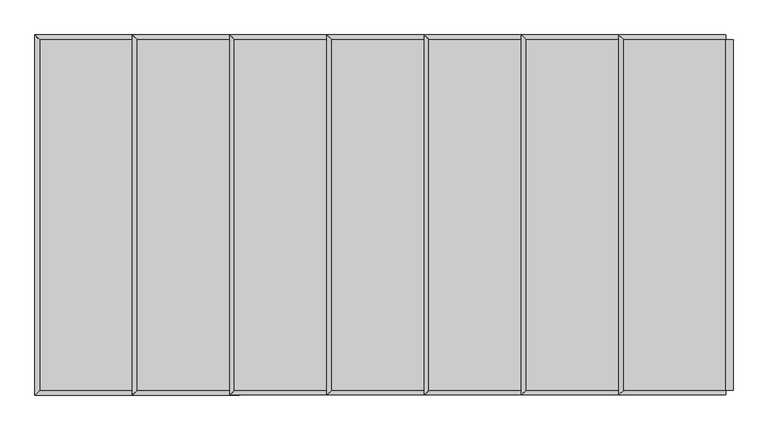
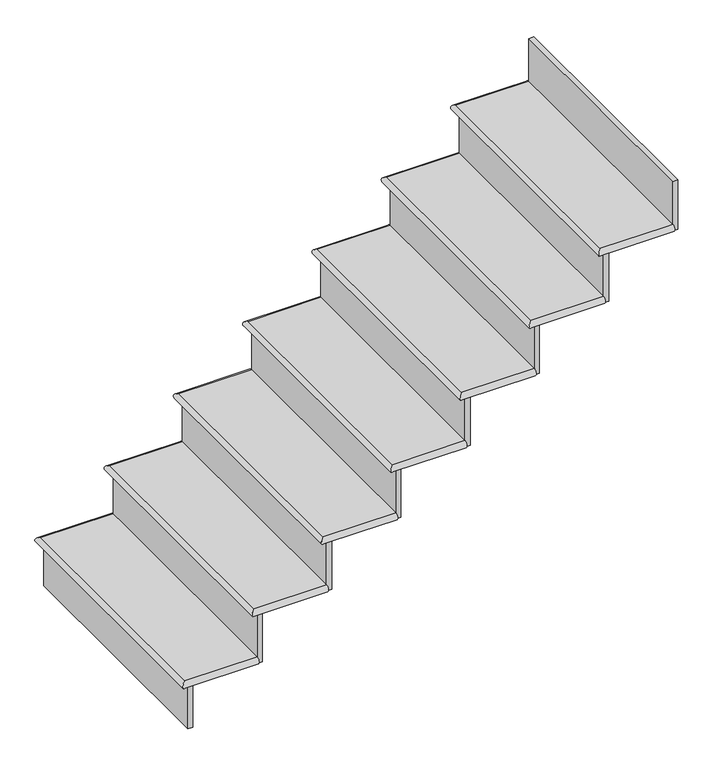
"""IFC4 building model written with IfcOpenShell, lengths in millimetres: stair flight geometry."""

from ifc_helpers import new_model, si_unit, frame, origin, place, context, project, spatial, circle_curve, ellipse_curve, faceted_brep, source, transform, mapped, element, save
from ifc_brep_helpers import plane_surface, cylinder_surface, advanced_brep


def stair_flight_e1e404fc(model_context):
    return source(origin(), model_context, "Body", "SolidModel", [
        advanced_brep(
        [(-17769.3481446, 3955.9128094, 165.1), (-17769.3481446, 3955.9128094, 190.5), (-17769.3481446, 4870.3128094, 190.5), (-17769.3481446, 4870.3128094, 165.1), (-17502.6481446, 3955.9128094, 190.5), (-17502.6481446, 4870.3128094, 190.5), (-17502.6481446, 4870.3128094, 165.1), (-17502.6481446, 3955.9128094, 165.1)],
        [
            (0, 1, ellipse_curve(frame((-17769.3481446, 3955.9128094, 177.8), z_axis=(-0.7071067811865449, 0.7071067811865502, 0.0), x_axis=(-0.7071067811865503, -0.7071067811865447, 0.0)), 17.9605122, 12.7)),
            (1, 2),
            (2, 3, ellipse_curve(frame((-17769.3481446, 4870.3128094, 177.8), z_axis=(-0.7071067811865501, -0.7071067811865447, 0.0), x_axis=(0.7071067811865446, -0.7071067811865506, 0.0)), 17.9605122, 12.7)),
            (3, 0),
            (4, 5),
            (5, 2),
            (1, 4),
            (6, 7),
            (7, 0),
            (3, 6),
            (4, 7, circle_curve(frame((-17502.6481446, 3955.9128094, 177.8), z_axis=(1.0, 0.0, 0.0), x_axis=(0.0, 1.0, 0.0)), 12.7)),
            (6, 5, circle_curve(frame((-17502.6481446, 4870.3128094, 177.8), z_axis=(1.0, 0.0, 0.0), x_axis=(0.0, -1.0, 0.0)), 12.7)),
        ],
        [
            cylinder_surface(frame((-17769.3481446, 3955.9128094, 177.8), z_axis=(0.0, -1.0, 0.0), x_axis=(1.0, 0.0, 0.0)), 12.7),
            plane_surface(frame((-17782.0481446, 4870.3128094, 190.5), z_axis=(0.0, 0.0, 1.0), x_axis=(-1.0, 0.0, 0.0))),
            plane_surface(frame((-17782.0481446, 4870.3128094, 165.1), z_axis=(0.0, 0.0, -1.0), x_axis=(1.0, 0.0, 0.0))),
            plane_surface(frame((-17502.6481446, 3955.9128094, 190.5), z_axis=(1.0, 0.0, 0.0), x_axis=(0.0, 0.0, -1.0))),
            cylinder_surface(frame((-17502.6481446, 3955.9128094, 177.8), z_axis=(1.0, 0.0, 0.0), x_axis=(0.0, 1.0, 0.0)), 12.7),
            cylinder_surface(frame((-17769.3481446, 4870.3128094, 177.8), z_axis=(-1.0, 0.0, 0.0), x_axis=(0.0, -1.0, 0.0)), 12.7),
        ],
        [
            (0, [[1, 2, 3, 4]]),
            (1, [[5, 6, -2, 7]]),
            (2, [[8, 9, -4, 10]]),
            (3, [[-5, 11, -8, 12]]),
            (4, [[-11, -7, -1, -9]]),
            (5, [[-3, -6, -12, -10]]),
        ],
    ),
        faceted_brep([(-17756.6481446, 3955.9128094, 165.1), (-17756.6481446, 3955.9128094, 0.0), (-17737.5981446, 3955.9128094, 0.0), (-17737.5981446, 3955.9128094, 165.1), (-17756.6481446, 4870.3128094, 165.1), (-17737.5981446, 4870.3128094, 165.1), (-17737.5981446, 4870.3128094, 0.0), (-17756.6481446, 4870.3128094, 0.0)], [[[0, 1, 2, 3]], [[4, 5, 6, 7]], [[1, 0, 4, 7]], [[2, 1, 7, 6]], [[3, 2, 6, 5]], [[0, 3, 5, 4]]]),
        faceted_brep([(-17502.6481446, 3955.9128094, 355.6), (-17502.6481446, 3955.9128094, 165.1), (-17483.5981446, 3955.9128094, 165.1), (-17483.5981446, 3955.9128094, 355.6), (-17502.6481446, 4870.3128094, 355.6), (-17483.5981446, 4870.3128094, 355.6), (-17483.5981446, 4870.3128094, 165.1), (-17502.6481446, 4870.3128094, 165.1)], [[[0, 1, 2, 3]], [[4, 5, 6, 7]], [[1, 0, 4, 7]], [[2, 1, 7, 6]], [[3, 2, 6, 5]], [[0, 3, 5, 4]]]),
        advanced_brep(
        [(-17248.6481446, 3955.9128094, 381.0), (-17248.6481446, 4870.3128094, 381.0), (-17515.3481446, 4870.3128094, 381.0), (-17515.3481446, 3955.9128094, 381.0), (-17248.6481446, 4870.3128094, 355.6), (-17248.6481446, 3955.9128094, 355.6), (-17515.3481446, 3955.9128094, 355.6), (-17515.3481446, 4870.3128094, 355.6)],
        [
            (0, 1),
            (1, 2),
            (2, 3),
            (3, 0),
            (4, 5),
            (5, 6),
            (6, 7),
            (7, 4),
            (0, 5, circle_curve(frame((-17248.6481446, 3955.9128094, 368.3), z_axis=(1.0, 0.0, 0.0), x_axis=(0.0, 1.0, 0.0)), 12.7)),
            (4, 1, circle_curve(frame((-17248.6481446, 4870.3128094, 368.3), z_axis=(1.0, 0.0, 0.0), x_axis=(0.0, -1.0, 0.0)), 12.7)),
            (6, 3, ellipse_curve(frame((-17515.3481446, 3955.9128094, 368.3), z_axis=(-0.7071067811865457, 0.7071067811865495, 0.0), x_axis=(-0.7071067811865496, -0.7071067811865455, 0.0)), 17.9605122, 12.7)),
            (2, 7, ellipse_curve(frame((-17515.3481446, 4870.3128094, 368.3), z_axis=(-0.7071067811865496, -0.7071067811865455, 0.0), x_axis=(0.7071067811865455, -0.7071067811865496, 0.0)), 17.9605122, 12.7)),
        ],
        [
            plane_surface(frame((-17782.0481446, 4870.3128094, 381.0), z_axis=(0.0, 0.0, 1.0), x_axis=(-1.0, 0.0, 0.0))),
            plane_surface(frame((-17782.0481446, 4870.3128094, 355.6), z_axis=(0.0, 0.0, -1.0), x_axis=(1.0, 0.0, 0.0))),
            plane_surface(frame((-17248.6481446, 3955.9128094, 381.0), z_axis=(1.0, 0.0, 0.0), x_axis=(0.0, 0.0, -1.0))),
            cylinder_surface(frame((-17515.3481446, 3955.9128094, 368.3), z_axis=(0.0, -1.0, 0.0), x_axis=(1.0, 0.0, 0.0)), 12.7),
            cylinder_surface(frame((-17248.6481446, 3955.9128094, 368.3), z_axis=(1.0, 0.0, 0.0), x_axis=(0.0, 1.0, 0.0)), 12.7),
            cylinder_surface(frame((-17515.3481446, 4870.3128094, 368.3), z_axis=(-1.0, 0.0, 0.0), x_axis=(0.0, -1.0, 0.0)), 12.7),
        ],
        [
            (0, [[1, 2, 3, 4]]),
            (1, [[5, 6, 7, 8]]),
            (2, [[-1, 9, -5, 10]]),
            (3, [[11, -3, 12, -7]]),
            (4, [[-9, -4, -11, -6]]),
            (5, [[-12, -2, -10, -8]]),
        ],
    ),
        faceted_brep([(-17248.6481446, 3955.9128094, 546.1), (-17248.6481446, 3955.9128094, 355.6), (-17229.5981446, 3955.9128094, 355.6), (-17229.5981446, 3955.9128094, 546.1), (-17248.6481446, 4870.3128094, 546.1), (-17229.5981446, 4870.3128094, 546.1), (-17229.5981446, 4870.3128094, 355.6), (-17248.6481446, 4870.3128094, 355.6)], [[[0, 1, 2, 3]], [[4, 5, 6, 7]], [[1, 0, 4, 7]], [[2, 1, 7, 6]], [[3, 2, 6, 5]], [[0, 3, 5, 4]]]),
        advanced_brep(
        [(-16994.6481446, 3955.9128094, 571.5), (-16994.6481446, 4870.3128094, 571.5), (-17261.3481446, 4870.3128094, 571.5), (-17261.3481446, 3955.9128094, 571.5), (-16994.6481446, 4870.3128094, 546.1), (-16994.6481446, 3955.9128094, 546.1), (-17261.3481446, 3955.9128094, 546.1), (-17261.3481446, 4870.3128094, 546.1)],
        [
            (0, 1),
            (1, 2),
            (2, 3),
            (3, 0),
            (4, 5),
            (5, 6),
            (6, 7),
            (7, 4),
            (0, 5, circle_curve(frame((-16994.6481446, 3955.9128094, 558.8), z_axis=(1.0, 0.0, 0.0), x_axis=(0.0, 1.0, 0.0)), 12.7)),
            (4, 1, circle_curve(frame((-16994.6481446, 4870.3128094, 558.8), z_axis=(1.0, 0.0, 0.0), x_axis=(0.0, -1.0, 0.0)), 12.7)),
            (6, 3, ellipse_curve(frame((-17261.3481446, 3955.9128094, 558.8), z_axis=(-0.7071067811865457, 0.7071067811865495, 0.0), x_axis=(-0.7071067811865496, -0.7071067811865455, 0.0)), 17.9605122, 12.7)),
            (2, 7, ellipse_curve(frame((-17261.3481446, 4870.3128094, 558.8), z_axis=(-0.7071067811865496, -0.7071067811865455, 0.0), x_axis=(0.7071067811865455, -0.7071067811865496, 0.0)), 17.9605122, 12.7)),
        ],
        [
            plane_surface(frame((-17528.0481446, 4870.3128094, 571.5), z_axis=(0.0, 0.0, 1.0), x_axis=(-1.0, 0.0, 0.0))),
            plane_surface(frame((-17528.0481446, 4870.3128094, 546.1), z_axis=(0.0, 0.0, -1.0), x_axis=(1.0, 0.0, 0.0))),
            plane_surface(frame((-16994.6481446, 3955.9128094, 571.5), z_axis=(1.0, 0.0, 0.0), x_axis=(0.0, 0.0, -1.0))),
            cylinder_surface(frame((-17261.3481446, 3955.9128094, 558.8), z_axis=(0.0, -1.0, 0.0), x_axis=(1.0, 0.0, 0.0)), 12.7),
            cylinder_surface(frame((-16994.6481446, 3955.9128094, 558.8), z_axis=(1.0, 0.0, 0.0), x_axis=(0.0, 1.0, 0.0)), 12.7),
            cylinder_surface(frame((-17261.3481446, 4870.3128094, 558.8), z_axis=(-1.0, 0.0, 0.0), x_axis=(0.0, -1.0, 0.0)), 12.7),
        ],
        [
            (0, [[1, 2, 3, 4]]),
            (1, [[5, 6, 7, 8]]),
            (2, [[-1, 9, -5, 10]]),
            (3, [[11, -3, 12, -7]]),
            (4, [[-9, -4, -11, -6]]),
            (5, [[-12, -2, -10, -8]]),
        ],
    ),
        faceted_brep([(-16994.6481446, 3955.9128094, 736.6), (-16994.6481446, 3955.9128094, 546.1), (-16975.5981446, 3955.9128094, 546.1), (-16975.5981446, 3955.9128094, 736.6), (-16994.6481446, 4870.3128094, 736.6), (-16975.5981446, 4870.3128094, 736.6), (-16975.5981446, 4870.3128094, 546.1), (-16994.6481446, 4870.3128094, 546.1)], [[[0, 1, 2, 3]], [[4, 5, 6, 7]], [[1, 0, 4, 7]], [[2, 1, 7, 6]], [[3, 2, 6, 5]], [[0, 3, 5, 4]]]),
        advanced_brep(
        [(-16740.6481446, 3955.9128094, 762.0), (-16740.6481446, 4870.3128094, 762.0), (-17007.3481446, 4870.3128094, 762.0), (-17007.3481446, 3955.9128094, 762.0), (-16740.6481446, 4870.3128094, 736.6), (-16740.6481446, 3955.9128094, 736.6), (-17007.3481446, 3955.9128094, 736.6), (-17007.3481446, 4870.3128094, 736.6)],
        [
            (0, 1),
            (1, 2),
            (2, 3),
            (3, 0),
            (4, 5),
            (5, 6),
            (6, 7),
            (7, 4),
            (0, 5, circle_curve(frame((-16740.6481446, 3955.9128094, 749.3), z_axis=(1.0, 0.0, 0.0), x_axis=(0.0, 1.0, 0.0)), 12.7)),
            (4, 1, circle_curve(frame((-16740.6481446, 4870.3128094, 749.3), z_axis=(1.0, 0.0, 0.0), x_axis=(0.0, -1.0, 0.0)), 12.7)),
            (6, 3, ellipse_curve(frame((-17007.3481446, 3955.9128094, 749.3), z_axis=(-0.7071067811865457, 0.7071067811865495, 0.0), x_axis=(-0.7071067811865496, -0.7071067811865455, 0.0)), 17.9605122, 12.7)),
            (2, 7, ellipse_curve(frame((-17007.3481446, 4870.3128094, 749.3), z_axis=(-0.7071067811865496, -0.7071067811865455, 0.0), x_axis=(0.7071067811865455, -0.7071067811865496, 0.0)), 17.9605122, 12.7)),
        ],
        [
            plane_surface(frame((-17274.0481446, 4870.3128094, 762.0), z_axis=(0.0, 0.0, 1.0), x_axis=(-1.0, 0.0, 0.0))),
            plane_surface(frame((-17274.0481446, 4870.3128094, 736.6), z_axis=(0.0, 0.0, -1.0), x_axis=(1.0, 0.0, 0.0))),
            plane_surface(frame((-16740.6481446, 3955.9128094, 762.0), z_axis=(1.0, 0.0, 0.0), x_axis=(0.0, 0.0, -1.0))),
            cylinder_surface(frame((-17007.3481446, 3955.9128094, 749.3), z_axis=(0.0, -1.0, 0.0), x_axis=(1.0, 0.0, 0.0)), 12.7),
            cylinder_surface(frame((-16740.6481446, 3955.9128094, 749.3), z_axis=(1.0, 0.0, 0.0), x_axis=(0.0, 1.0, 0.0)), 12.7),
            cylinder_surface(frame((-17007.3481446, 4870.3128094, 749.3), z_axis=(-1.0, 0.0, 0.0), x_axis=(0.0, -1.0, 0.0)), 12.7),
        ],
        [
            (0, [[1, 2, 3, 4]]),
            (1, [[5, 6, 7, 8]]),
            (2, [[-1, 9, -5, 10]]),
            (3, [[11, -3, 12, -7]]),
            (4, [[-9, -4, -11, -6]]),
            (5, [[-12, -2, -10, -8]]),
        ],
    ),
        faceted_brep([(-16740.6481446, 3955.9128094, 927.1), (-16740.6481446, 3955.9128094, 736.6), (-16721.5981446, 3955.9128094, 736.6), (-16721.5981446, 3955.9128094, 927.1), (-16740.6481446, 4870.3128094, 927.1), (-16721.5981446, 4870.3128094, 927.1), (-16721.5981446, 4870.3128094, 736.6), (-16740.6481446, 4870.3128094, 736.6)], [[[0, 1, 2, 3]], [[4, 5, 6, 7]], [[1, 0, 4, 7]], [[2, 1, 7, 6]], [[3, 2, 6, 5]], [[0, 3, 5, 4]]]),
        advanced_brep(
        [(-16486.6481446, 3955.9128094, 952.5), (-16486.6481446, 4870.3128094, 952.5), (-16753.3481446, 4870.3128094, 952.5), (-16753.3481446, 3955.9128094, 952.5), (-16486.6481446, 4870.3128094, 927.1), (-16486.6481446, 3955.9128094, 927.1), (-16753.3481446, 3955.9128094, 927.1), (-16753.3481446, 4870.3128094, 927.1)],
        [
            (0, 1),
            (1, 2),
            (2, 3),
            (3, 0),
            (4, 5),
            (5, 6),
            (6, 7),
            (7, 4),
            (0, 5, circle_curve(frame((-16486.6481446, 3955.9128094, 939.8), z_axis=(1.0, 0.0, 0.0), x_axis=(0.0, 1.0, 0.0)), 12.7)),
            (4, 1, circle_curve(frame((-16486.6481446, 4870.3128094, 939.8), z_axis=(1.0, 0.0, 0.0), x_axis=(0.0, -1.0, 0.0)), 12.7)),
            (6, 3, ellipse_curve(frame((-16753.3481446, 3955.9128094, 939.8), z_axis=(-0.7071067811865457, 0.7071067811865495, 0.0), x_axis=(-0.7071067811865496, -0.7071067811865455, 0.0)), 17.9605122, 12.7)),
            (2, 7, ellipse_curve(frame((-16753.3481446, 4870.3128094, 939.8), z_axis=(-0.7071067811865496, -0.7071067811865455, 0.0), x_axis=(0.7071067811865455, -0.7071067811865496, 0.0)), 17.9605122, 12.7)),
        ],
        [
            plane_surface(frame((-17020.0481446, 4870.3128094, 952.5), z_axis=(0.0, 0.0, 1.0), x_axis=(-1.0, 0.0, 0.0))),
            plane_surface(frame((-17020.0481446, 4870.3128094, 927.1), z_axis=(0.0, 0.0, -1.0), x_axis=(1.0, 0.0, 0.0))),
            plane_surface(frame((-16486.6481446, 3955.9128094, 952.5), z_axis=(1.0, 0.0, 0.0), x_axis=(0.0, 0.0, -1.0))),
            cylinder_surface(frame((-16753.3481446, 3955.9128094, 939.8), z_axis=(0.0, -1.0, 0.0), x_axis=(1.0, 0.0, 0.0)), 12.7),
            cylinder_surface(frame((-16486.6481446, 3955.9128094, 939.8), z_axis=(1.0, 0.0, 0.0), x_axis=(0.0, 1.0, 0.0)), 12.7),
            cylinder_surface(frame((-16753.3481446, 4870.3128094, 939.8), z_axis=(-1.0, 0.0, 0.0), x_axis=(0.0, -1.0, 0.0)), 12.7),
        ],
        [
            (0, [[1, 2, 3, 4]]),
            (1, [[5, 6, 7, 8]]),
            (2, [[-1, 9, -5, 10]]),
            (3, [[11, -3, 12, -7]]),
            (4, [[-9, -4, -11, -6]]),
            (5, [[-12, -2, -10, -8]]),
        ],
    ),
        faceted_brep([(-16486.6481446, 3955.9128094, 1117.6), (-16486.6481446, 3955.9128094, 927.1), (-16467.5981446, 3955.9128094, 927.1), (-16467.5981446, 3955.9128094, 1117.6), (-16486.6481446, 4870.3128094, 1117.6), (-16467.5981446, 4870.3128094, 1117.6), (-16467.5981446, 4870.3128094, 927.1), (-16486.6481446, 4870.3128094, 927.1)], [[[0, 1, 2, 3]], [[4, 5, 6, 7]], [[1, 0, 4, 7]], [[2, 1, 7, 6]], [[3, 2, 6, 5]], [[0, 3, 5, 4]]]),
        advanced_brep(
        [(-16232.6481446, 3955.9128094, 1143.0), (-16232.6481446, 4870.3128094, 1143.0), (-16499.3481446, 4870.3128094, 1143.0), (-16499.3481446, 3955.9128094, 1143.0), (-16232.6481446, 4870.3128094, 1117.6), (-16232.6481446, 3955.9128094, 1117.6), (-16499.3481446, 3955.9128094, 1117.6), (-16499.3481446, 4870.3128094, 1117.6)],
        [
            (0, 1),
            (1, 2),
            (2, 3),
            (3, 0),
            (4, 5),
            (5, 6),
            (6, 7),
            (7, 4),
            (0, 5, circle_curve(frame((-16232.6481446, 3955.9128094, 1130.3), z_axis=(1.0, 0.0, 0.0), x_axis=(0.0, 1.0, 0.0)), 12.7)),
            (4, 1, circle_curve(frame((-16232.6481446, 4870.3128094, 1130.3), z_axis=(1.0, 0.0, 0.0), x_axis=(0.0, -1.0, 0.0)), 12.7)),
            (6, 3, ellipse_curve(frame((-16499.3481446, 3955.9128094, 1130.3), z_axis=(-0.7071067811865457, 0.7071067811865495, 0.0), x_axis=(-0.7071067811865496, -0.7071067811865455, 0.0)), 17.9605122, 12.7)),
            (2, 7, ellipse_curve(frame((-16499.3481446, 4870.3128094, 1130.3), z_axis=(-0.7071067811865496, -0.7071067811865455, 0.0), x_axis=(0.7071067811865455, -0.7071067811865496, 0.0)), 17.9605122, 12.7)),
        ],
        [
            plane_surface(frame((-16766.0481446, 4870.3128094, 1143.0), z_axis=(0.0, 0.0, 1.0), x_axis=(-1.0, 0.0, 0.0))),
            plane_surface(frame((-16766.0481446, 4870.3128094, 1117.6), z_axis=(0.0, 0.0, -1.0), x_axis=(1.0, 0.0, 0.0))),
            plane_surface(frame((-16232.6481446, 3955.9128094, 1143.0), z_axis=(1.0, 0.0, 0.0), x_axis=(0.0, 0.0, -1.0))),
            cylinder_surface(frame((-16499.3481446, 3955.9128094, 1130.3), z_axis=(0.0, -1.0, 0.0), x_axis=(1.0, 0.0, 0.0)), 12.7),
            cylinder_surface(frame((-16232.6481446, 3955.9128094, 1130.3), z_axis=(1.0, 0.0, 0.0), x_axis=(0.0, 1.0, 0.0)), 12.7),
            cylinder_surface(frame((-16499.3481446, 4870.3128094, 1130.3), z_axis=(-1.0, 0.0, 0.0), x_axis=(0.0, -1.0, 0.0)), 12.7),
        ],
        [
            (0, [[1, 2, 3, 4]]),
            (1, [[5, 6, 7, 8]]),
            (2, [[-1, 9, -5, 10]]),
            (3, [[11, -3, 12, -7]]),
            (4, [[-9, -4, -11, -6]]),
            (5, [[-12, -2, -10, -8]]),
        ],
    ),
        faceted_brep([(-15978.6481446, 3955.9128094, 1498.6), (-15978.6481446, 3955.9128094, 1308.1), (-15959.5981446, 3955.9128094, 1308.1), (-15959.5981446, 3955.9128094, 1498.6), (-15978.6481446, 4870.3128094, 1498.6), (-15959.5981446, 4870.3128094, 1498.6), (-15959.5981446, 4870.3128094, 1308.1), (-15978.6481446, 4870.3128094, 1308.1)], [[[0, 1, 2, 3]], [[4, 5, 6, 7]], [[1, 0, 4, 7]], [[2, 1, 7, 6]], [[3, 2, 6, 5]], [[0, 3, 5, 4]]]),
        faceted_brep([(-16232.6481446, 3955.9128094, 1308.1), (-16232.6481446, 3955.9128094, 1117.6), (-16213.5981446, 3955.9128094, 1117.6), (-16213.5981446, 3955.9128094, 1308.1), (-16232.6481446, 4870.3128094, 1308.1), (-16213.5981446, 4870.3128094, 1308.1), (-16213.5981446, 4870.3128094, 1117.6), (-16232.6481446, 4870.3128094, 1117.6)], [[[0, 1, 2, 3]], [[4, 5, 6, 7]], [[1, 0, 4, 7]], [[2, 1, 7, 6]], [[3, 2, 6, 5]], [[0, 3, 5, 4]]]),
        advanced_brep(
        [(-15978.6481446, 3955.9128094, 1333.5), (-15978.6481446, 4870.3128094, 1333.5), (-16245.3481446, 4870.3128094, 1333.5), (-16245.3481446, 3955.9128094, 1333.5), (-16004.0481446, 3955.9128094, 1333.5), (-15978.6481446, 4870.3128094, 1308.1), (-15978.6481446, 3955.9128094, 1308.1), (-16004.0481446, 3955.9128094, 1308.1), (-16245.3481446, 3955.9128094, 1308.1), (-16245.3481446, 4870.3128094, 1308.1)],
        [
            (0, 1),
            (1, 2),
            (2, 3),
            (3, 4),
            (4, 0),
            (5, 6),
            (6, 7),
            (7, 8),
            (8, 9),
            (9, 5),
            (0, 6, circle_curve(frame((-15978.6481446, 3955.9128094, 1320.8), z_axis=(1.0, 0.0, 0.0), x_axis=(0.0, 1.0, 0.0)), 12.7)),
            (5, 1, circle_curve(frame((-15978.6481446, 4870.3128094, 1320.8), z_axis=(1.0, 0.0, 0.0), x_axis=(0.0, -1.0, 0.0)), 12.7)),
            (8, 3, ellipse_curve(frame((-16245.3481446, 3955.9128094, 1320.8), z_axis=(-0.7071067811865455, 0.7071067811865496, 0.0), x_axis=(-0.7071067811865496, -0.7071067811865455, 0.0)), 17.9605122, 12.7)),
            (2, 9, ellipse_curve(frame((-16245.3481446, 4870.3128094, 1320.8), z_axis=(-0.7071067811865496, -0.7071067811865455, 0.0), x_axis=(0.7071067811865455, -0.7071067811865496, 0.0)), 17.9605122, 12.7)),
        ],
        [
            plane_surface(frame((-17782.0481446, 4870.3128094, 1333.5), z_axis=(0.0, 0.0, 1.0), x_axis=(-1.0, 0.0, 0.0))),
            plane_surface(frame((-17782.0481446, 4870.3128094, 1308.1), z_axis=(0.0, 0.0, -1.0), x_axis=(1.0, 0.0, 0.0))),
            plane_surface(frame((-15978.6481446, 3955.9128094, 1333.5), z_axis=(1.0, 0.0, 0.0), x_axis=(0.0, 0.0, -1.0))),
            cylinder_surface(frame((-16245.3481446, 3955.9128094, 1320.8), z_axis=(0.0, -1.0, 0.0), x_axis=(1.0, 0.0, 0.0)), 12.7),
            cylinder_surface(frame((-15978.6481446, 3955.9128094, 1320.8), z_axis=(1.0, 0.0, 0.0), x_axis=(0.0, 1.0, 0.0)), 12.7),
            cylinder_surface(frame((-16245.3481446, 4870.3128094, 1320.8), z_axis=(-1.0, 0.0, 0.0), x_axis=(0.0, -1.0, 0.0)), 12.7),
        ],
        [
            (0, [[1, 2, 3, 4, 5]]),
            (1, [[6, 7, 8, 9, 10]]),
            (2, [[-1, 11, -6, 12]]),
            (3, [[13, -3, 14, -9]]),
            (4, [[-11, -5, -4, -13, -8, -7]]),
            (5, [[-14, -2, -12, -10]]),
        ],
    ),
    ])


if __name__ == "__main__":
    model = new_model("IFC4")
    model_context = context("Model", 3, world=origin())
    ifc_project = project(units=[si_unit("LENGTHUNIT", "METRE", prefix="MILLI")], contexts=[model_context])
    site = spatial("IfcSite", under=ifc_project)
    building = spatial("IfcBuilding", under=site)
    placement = place(None, origin())
    stair_flight_shape = stair_flight_e1e404fc(model_context)
    element("IfcStairFlight", 1, ObjectType="Unassigned Steps with 1\" Tread 1\" Nosing 3/4\" Riser (1)", at=placement, inside=building, context=model_context, shape_type="MappedRepresentation", body=[
        mapped(stair_flight_shape, transform((0.0, 0.0, 0.0), x_axis=(1.0, 0.0, 0.0), y_axis=(0.0, 1.0, 0.0), z_axis=(0.0, 0.0, 1.0))),
    ])
    save(model, "model.ifc")
